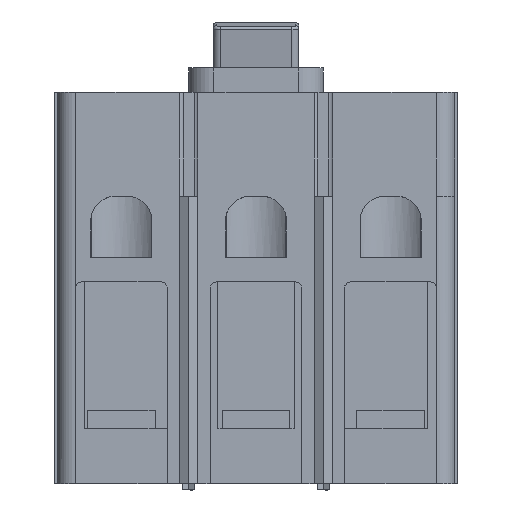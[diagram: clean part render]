
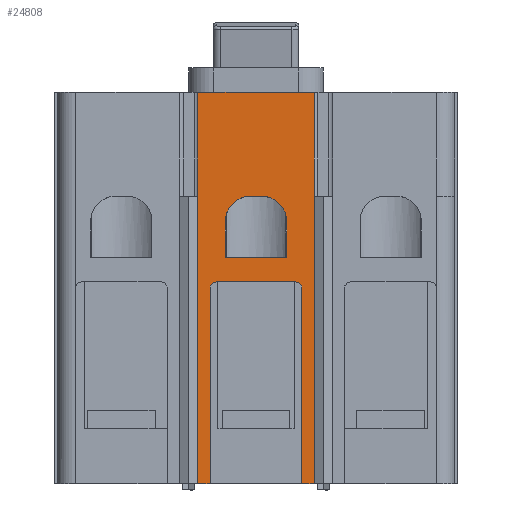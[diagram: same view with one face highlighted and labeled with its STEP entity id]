
A CAD part, front view. The second image highlights one B-rep face of the part: STEP entity #24808.
In plain terms, the highlighted planar face has unit normal (0, -1, 0).
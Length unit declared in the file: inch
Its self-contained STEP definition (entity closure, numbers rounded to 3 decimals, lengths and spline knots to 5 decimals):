
#2803=CARTESIAN_POINT('',(-1.0124,-4.48419,-0.62653));
#2804=VERTEX_POINT('',#2803);
#2811=CARTESIAN_POINT('',(-0.3874,-4.48419,-0.62653));
#2812=VERTEX_POINT('',#2811);
#2813=CARTESIAN_POINT('',(-0.3874,-4.48419,-0.62653));
#2814=DIRECTION('',(-1.0,0.0,0.0));
#2815=VECTOR('',#2814,0.625);
#2816=LINE('',#2813,#2815);
#2817=EDGE_CURVE('',#2812,#2804,#2816,.T.);
#2989=CARTESIAN_POINT('',(-0.3874,-4.48419,-0.25153));
#2990=VERTEX_POINT('',#2989);
#2997=CARTESIAN_POINT('',(-0.6374,-4.48419,-0.00153));
#2998=VERTEX_POINT('',#2997);
#2999=CARTESIAN_POINT('',(-0.6374,-4.48419,-0.25153));
#3000=DIRECTION('',(0.0,1.0,0.0));
#3001=DIRECTION('',(-1.0,0.0,0.0));
#3002=AXIS2_PLACEMENT_3D('',#2999,#3000,#3001);
#3003=CIRCLE('',#3002,0.25);
#3004=EDGE_CURVE('',#2998,#2990,#3003,.T.);
#3133=CARTESIAN_POINT('',(-0.3874,-4.48419,-0.25153));
#3134=DIRECTION('',(0.0,0.0,-1.0));
#3135=VECTOR('',#3134,0.375);
#3136=LINE('',#3133,#3135);
#3137=EDGE_CURVE('',#2990,#2812,#3136,.T.);
#3150=CARTESIAN_POINT('',(-0.7624,-4.48419,-0.00153));
#3151=VERTEX_POINT('',#3150);
#3158=CARTESIAN_POINT('',(-1.0124,-4.48419,-0.25153));
#3159=VERTEX_POINT('',#3158);
#3160=CARTESIAN_POINT('',(-0.7624,-4.48419,-0.25153));
#3161=DIRECTION('',(0.0,1.0,0.0));
#3162=DIRECTION('',(0.0,0.0,-1.0));
#3163=AXIS2_PLACEMENT_3D('',#3160,#3161,#3162);
#3164=CIRCLE('',#3163,0.25);
#3165=EDGE_CURVE('',#3159,#3151,#3164,.T.);
#3184=CARTESIAN_POINT('',(-1.0124,-4.48419,-0.62653));
#3185=DIRECTION('',(0.0,0.0,1.0));
#3186=VECTOR('',#3185,0.375);
#3187=LINE('',#3184,#3186);
#3188=EDGE_CURVE('',#2804,#3159,#3187,.T.);
#11048=CARTESIAN_POINT('',(-0.1069,-4.48419,-0.00153));
#11049=VERTEX_POINT('',#11048);
#11058=CARTESIAN_POINT('',(-0.1064,-4.48419,-0.00153));
#11059=VERTEX_POINT('',#11058);
#11066=CARTESIAN_POINT('',(-0.1064,-4.48419,-0.00153));
#11067=DIRECTION('',(-1.0,0.0,0.0));
#11068=VECTOR('',#11067,0.0005);
#11069=LINE('',#11066,#11068);
#11070=EDGE_CURVE('',#11059,#11049,#11069,.T.);
#11109=CARTESIAN_POINT('',(-0.7624,-4.48419,-0.00153));
#11110=DIRECTION('',(1.0,0.0,0.0));
#11111=VECTOR('',#11110,0.125);
#11112=LINE('',#11109,#11111);
#11113=EDGE_CURVE('',#3151,#2998,#11112,.T.);
#11272=CARTESIAN_POINT('',(-1.2934,-4.48419,-0.00153));
#11273=VERTEX_POINT('',#11272);
#11282=CARTESIAN_POINT('',(-1.2934,-4.48419,1.06047));
#11283=VERTEX_POINT('',#11282);
#11284=CARTESIAN_POINT('',(-1.2934,-4.48419,-0.00153));
#11285=DIRECTION('',(0.0,0.0,1.0));
#11286=VECTOR('',#11285,1.062);
#11287=LINE('',#11284,#11286);
#11288=EDGE_CURVE('',#11273,#11283,#11287,.T.);
#11782=CARTESIAN_POINT('',(-0.1064,-4.48419,1.06047));
#11783=VERTEX_POINT('',#11782);
#11784=CARTESIAN_POINT('',(-0.1064,-4.48419,1.06047));
#11785=DIRECTION('',(-1.0,0.0,0.0));
#11786=VECTOR('',#11785,1.187);
#11787=LINE('',#11784,#11786);
#11788=EDGE_CURVE('',#11783,#11283,#11787,.T.);
#17199=CARTESIAN_POINT('',(-0.1064,-4.48419,-0.00153));
#17200=DIRECTION('',(0.0,0.0,1.0));
#17201=VECTOR('',#17200,1.062);
#17202=LINE('',#17199,#17201);
#17203=EDGE_CURVE('',#11059,#11783,#17202,.T.);
#19097=CARTESIAN_POINT('',(-1.2939,-4.48419,-0.00153));
#19098=VERTEX_POINT('',#19097);
#19105=CARTESIAN_POINT('',(-1.2934,-4.48419,-0.00153));
#19106=DIRECTION('',(-1.0,0.0,0.0));
#19107=VECTOR('',#19106,0.0005);
#19108=LINE('',#19105,#19107);
#19109=EDGE_CURVE('',#11273,#19098,#19108,.T.);
#19943=CARTESIAN_POINT('',(-0.1069,-4.48419,-2.93953));
#19944=VERTEX_POINT('',#19943);
#19951=CARTESIAN_POINT('',(-0.2319,-4.48419,-2.93953));
#19952=VERTEX_POINT('',#19951);
#19953=CARTESIAN_POINT('',(-0.1069,-4.48419,-2.93953));
#19954=DIRECTION('',(-1.0,0.0,0.0));
#19955=VECTOR('',#19954,0.125);
#19956=LINE('',#19953,#19955);
#19957=EDGE_CURVE('',#19944,#19952,#19956,.T.);
#19975=CARTESIAN_POINT('',(-1.1699,-4.48419,-2.93953));
#19976=VERTEX_POINT('',#19975);
#19983=CARTESIAN_POINT('',(-1.2939,-4.48419,-2.93953));
#19984=VERTEX_POINT('',#19983);
#19985=CARTESIAN_POINT('',(-1.1699,-4.48419,-2.93953));
#19986=DIRECTION('',(-1.0,0.0,0.0));
#19987=VECTOR('',#19986,0.124);
#19988=LINE('',#19985,#19987);
#19989=EDGE_CURVE('',#19976,#19984,#19988,.T.);
#24647=CARTESIAN_POINT('',(-0.2939,-4.48419,-0.87653));
#24648=VERTEX_POINT('',#24647);
#24655=CARTESIAN_POINT('',(-1.1079,-4.48419,-0.87653));
#24656=VERTEX_POINT('',#24655);
#24657=CARTESIAN_POINT('',(-0.2939,-4.48419,-0.87653));
#24658=DIRECTION('',(-1.0,0.0,0.0));
#24659=VECTOR('',#24658,0.814);
#24660=LINE('',#24657,#24659);
#24661=EDGE_CURVE('',#24648,#24656,#24660,.T.);
#24680=CARTESIAN_POINT('',(-1.1699,-4.48419,-0.93853));
#24681=VERTEX_POINT('',#24680);
#24682=CARTESIAN_POINT('',(-1.1079,-4.48419,-0.93853));
#24683=DIRECTION('',(0.0,-1.0,0.0));
#24684=DIRECTION('',(0.0,0.0,1.0));
#24685=AXIS2_PLACEMENT_3D('',#24682,#24683,#24684);
#24686=CIRCLE('',#24685,0.062);
#24687=EDGE_CURVE('',#24656,#24681,#24686,.T.);
#24751=CARTESIAN_POINT('',(1.3621,-4.48419,-0.00153));
#24752=DIRECTION('',(0.0,-1.0,0.0));
#24753=DIRECTION('',(0.0,0.0,-1.0));
#24754=AXIS2_PLACEMENT_3D('',#24751,#24752,#24753);
#24755=PLANE('',#24754);
#24756=CARTESIAN_POINT('',(-0.2319,-4.48419,-0.93853));
#24757=VERTEX_POINT('',#24756);
#24758=CARTESIAN_POINT('',(-0.2319,-4.48419,-2.93953));
#24759=DIRECTION('',(0.0,0.0,1.0));
#24760=VECTOR('',#24759,2.001);
#24761=LINE('',#24758,#24760);
#24762=EDGE_CURVE('',#19952,#24757,#24761,.T.);
#24763=ORIENTED_EDGE('',*,*,#24762,.F.);
#24764=ORIENTED_EDGE('',*,*,#19957,.F.);
#24765=CARTESIAN_POINT('',(-0.1069,-4.48419,-0.00153));
#24766=DIRECTION('',(0.0,0.0,-1.0));
#24767=VECTOR('',#24766,2.938);
#24768=LINE('',#24765,#24767);
#24769=EDGE_CURVE('',#11049,#19944,#24768,.T.);
#24770=ORIENTED_EDGE('',*,*,#24769,.F.);
#24771=ORIENTED_EDGE('',*,*,#11070,.F.);
#24772=ORIENTED_EDGE('',*,*,#17203,.T.);
#24773=ORIENTED_EDGE('',*,*,#11788,.T.);
#24774=ORIENTED_EDGE('',*,*,#11288,.F.);
#24775=ORIENTED_EDGE('',*,*,#19109,.T.);
#24776=CARTESIAN_POINT('',(-1.2939,-4.48419,-0.00153));
#24777=DIRECTION('',(0.0,0.0,-1.0));
#24778=VECTOR('',#24777,2.938);
#24779=LINE('',#24776,#24778);
#24780=EDGE_CURVE('',#19098,#19984,#24779,.T.);
#24781=ORIENTED_EDGE('',*,*,#24780,.T.);
#24782=ORIENTED_EDGE('',*,*,#19989,.F.);
#24783=CARTESIAN_POINT('',(-1.1699,-4.48419,-2.93953));
#24784=DIRECTION('',(0.0,0.0,1.0));
#24785=VECTOR('',#24784,2.001);
#24786=LINE('',#24783,#24785);
#24787=EDGE_CURVE('',#19976,#24681,#24786,.T.);
#24788=ORIENTED_EDGE('',*,*,#24787,.T.);
#24789=ORIENTED_EDGE('',*,*,#24687,.F.);
#24790=ORIENTED_EDGE('',*,*,#24661,.F.);
#24791=CARTESIAN_POINT('',(-0.2939,-4.48419,-0.93853));
#24792=DIRECTION('',(0.0,-1.0,0.0));
#24793=DIRECTION('',(1.0,0.0,0.0));
#24794=AXIS2_PLACEMENT_3D('',#24791,#24792,#24793);
#24795=CIRCLE('',#24794,0.062);
#24796=EDGE_CURVE('',#24757,#24648,#24795,.T.);
#24797=ORIENTED_EDGE('',*,*,#24796,.F.);
#24798=EDGE_LOOP('',(#24763,#24764,#24770,#24771,#24772,#24773,#24774,#24775,#24781,#24782,#24788,#24789,#24790,#24797));
#24799=FACE_OUTER_BOUND('',#24798,.T.);
#24800=ORIENTED_EDGE('',*,*,#2817,.T.);
#24801=ORIENTED_EDGE('',*,*,#3188,.T.);
#24802=ORIENTED_EDGE('',*,*,#3165,.T.);
#24803=ORIENTED_EDGE('',*,*,#11113,.T.);
#24804=ORIENTED_EDGE('',*,*,#3004,.T.);
#24805=ORIENTED_EDGE('',*,*,#3137,.T.);
#24806=EDGE_LOOP('',(#24800,#24801,#24802,#24803,#24804,#24805));
#24807=FACE_BOUND('',#24806,.T.);
#24808=ADVANCED_FACE('',(#24799,#24807),#24755,.T.);
